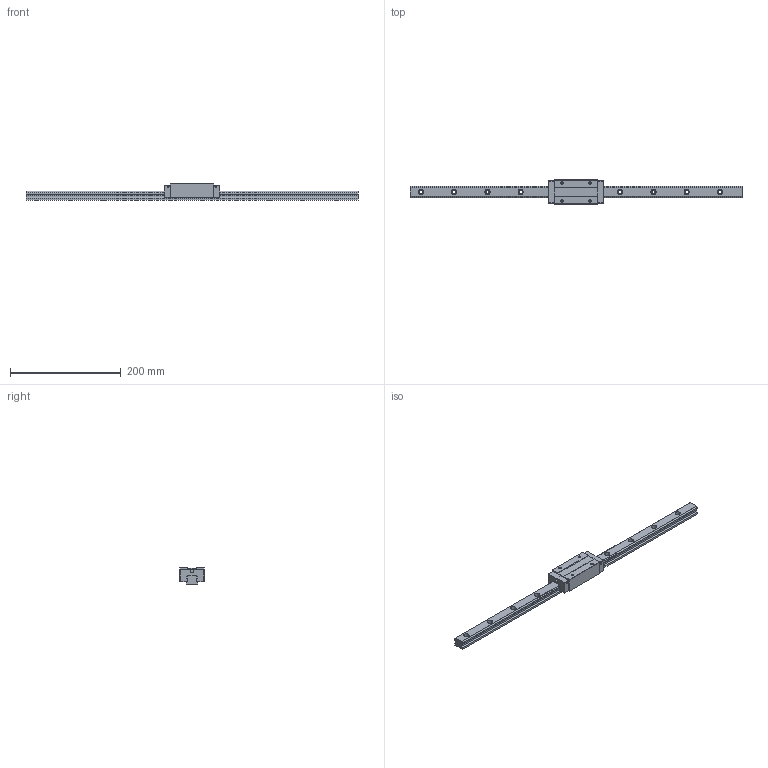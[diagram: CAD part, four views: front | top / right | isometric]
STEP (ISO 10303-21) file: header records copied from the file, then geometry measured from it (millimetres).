
FILE_DESCRIPTION (( 'STEP AP203' ), '1' );
FILE_NAME ('TRH20VE-XN.STEP', '2024-05-23T03:09:01', ( '' ), ( '' ), 'SwSTEP 2.0', 'SolidWorks 2022', '' );
FILE_SCHEMA (( 'CONFIG_CONTROL_DESIGN' ));
Length unit declared in the file: millimetre
Products named in the file (1): TRH20VE-XN
Bounding box: 600 x 44 x 30 mm (x, y, z)
Volume: 253237.8 mm3; surface area: 68109.4 mm2
Topology: 2 solids, 2 shells, 196 faces, 512 edges, 332 vertices
Faces by surface type: cylinder 96, plane 84, cone 16
Entity records: 6127 total; most frequent: DIRECTION 1098, CARTESIAN_POINT 1033, ORIENTED_EDGE 1008, EDGE_CURVE 504, AXIS2_PLACEMENT_3D 397, VERTEX_POINT 332, VECTOR 304, LINE 304
